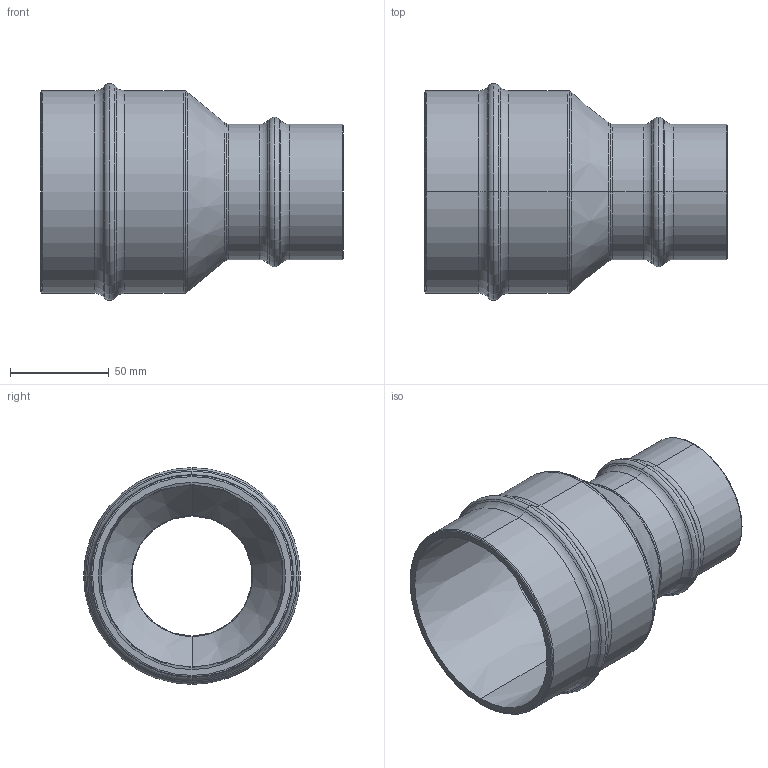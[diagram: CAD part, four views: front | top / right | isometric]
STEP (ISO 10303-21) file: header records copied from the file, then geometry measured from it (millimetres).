
FILE_DESCRIPTION((''),'2;1');
FILE_NAME('2014862100','2017-05-12T',('Administrator'),(''),'PRO/ENGINEER BY PARAMETRIC TECHNOLOGY CORPORATION, 2009360','PRO/ENGINEER BY PARAMETRIC TECHNOLOGY CORPORATION, 2009360','');
FILE_SCHEMA(('AUTOMOTIVE_DESIGN_CC2 { 1 2 10303 214 -1 1 5 2 }'));
Length unit declared in the file: millimetre
Products named in the file (1): 2014862100
Bounding box: 153.2 x 109.96 x 109.96 mm (x, y, z)
Volume: 206649.1 mm3; surface area: 85548.7 mm2
Topology: 1 solids, 1 shells, 66 faces, 132 edges, 68 vertices
Faces by surface type: torus 40, cone 16, cylinder 8, plane 2
Entity records: 2135 total; most frequent: DIRECTION 372, CARTESIAN_POINT 266, ORIENTED_EDGE 264, AXIS2_PLACEMENT_3D 174, PRESENTATION_STYLE_ASSIGNMENT 133, STYLED_ITEM 133, CURVE_STYLE 132, EDGE_CURVE 132
